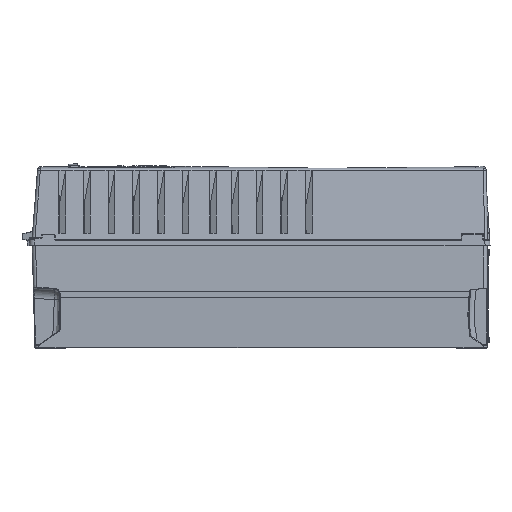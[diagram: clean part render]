
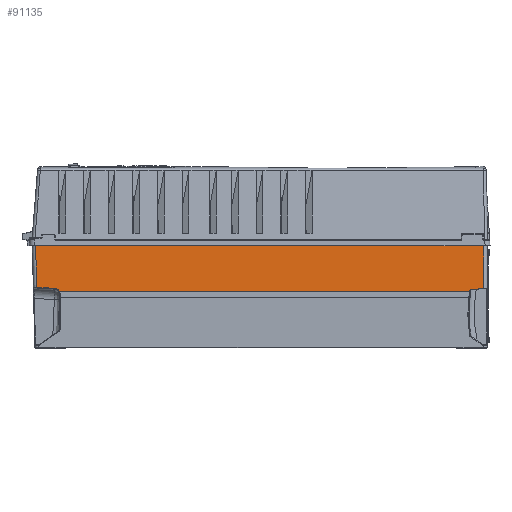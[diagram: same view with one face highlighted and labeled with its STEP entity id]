
A CAD part, left-side view. The second image highlights one B-rep face of the part: STEP entity #91135.
In plain terms, the highlighted planar face has unit normal (-1, 0, 0.024).
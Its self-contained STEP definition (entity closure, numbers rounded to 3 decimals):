
#1611=CARTESIAN_POINT('',(-119.098,318.091,
-2.488));
#1656=DIRECTION('',(0.001,0.998,0.061));
#1657=VECTOR('',#1656,25.514);
#1658=CARTESIAN_POINT('',(-120.645,291.007,
-65.824));
#1659=LINE('',#1658,#1657);
#1660=DIRECTION('',(0.024,0.026,0.999));
#1661=VECTOR('',#1660,61.818);
#1662=CARTESIAN_POINT('',(-120.607,316.473,
-64.266));
#1663=LINE('',#1662,#1661);
#1664=DIRECTION('',(0.,1.,0.));
#1665=VECTOR('',#1664,636.291);
#1666=CARTESIAN_POINT('',(-119.098,-318.2,
-2.488));
#1667=LINE('',#1666,#1665);
#1668=DIRECTION('',(-0.024,0.,-1.));
#1669=VECTOR('',#1668,63.825);
#1670=CARTESIAN_POINT('',(-119.098,-318.2,
-2.488));
#1671=LINE('',#1670,#1669);
#1672=CARTESIAN_POINT('',(-120.75,-297.88,
-70.105));
#1673=CARTESIAN_POINT('',(-120.75,-297.9,
-70.096));
#1674=CARTESIAN_POINT('',(-120.749,-297.936,
-70.069));
#1675=CARTESIAN_POINT('',(-120.747,-297.977,
-69.985));
#1676=CARTESIAN_POINT('',(-120.745,-298.011,
-69.906));
#1677=CARTESIAN_POINT('',(-120.743,-298.044,
-69.818));
#1678=CARTESIAN_POINT('',(-120.741,-298.077,
-69.725));
#1679=CARTESIAN_POINT('',(-120.738,-298.11,
-69.622));
#1680=CARTESIAN_POINT('',(-120.735,-298.145,
-69.508));
#1681=CARTESIAN_POINT('',(-120.732,-298.182,
-69.381));
#1682=CARTESIAN_POINT('',(-120.729,-298.221,
-69.242));
#1683=CARTESIAN_POINT('',(-120.725,-298.262,
-69.091));
#1684=CARTESIAN_POINT('',(-120.721,-298.304,
-68.931));
#1685=CARTESIAN_POINT('',(-120.717,-298.348,
-68.762));
#1686=CARTESIAN_POINT('',(-120.713,-298.392,
-68.587));
#1687=CARTESIAN_POINT('',(-120.708,-298.436,
-68.407));
#1688=CARTESIAN_POINT('',(-120.704,-298.481,
-68.223));
#1689=CARTESIAN_POINT('',(-120.699,-298.526,
-68.038));
#1690=CARTESIAN_POINT('',(-120.695,-298.57,
-67.853));
#1691=CARTESIAN_POINT('',(-120.69,-298.613,
-67.669));
#1692=CARTESIAN_POINT('',(-120.688,-298.641,
-67.549));
#1693=CARTESIAN_POINT('',(-120.686,-298.655,
-67.489));
#1695=DIRECTION('',(0.,1.,0.));
#1696=VECTOR('',#1695,582.019);
#1697=CARTESIAN_POINT('',(-120.75,-297.88,
-70.105));
#1698=LINE('',#1697,#1696);
#1699=CARTESIAN_POINT('',(-120.75,284.139,
-70.107));
#1700=CARTESIAN_POINT('',(-120.735,284.492,
-69.488));
#1701=CARTESIAN_POINT('',(-120.708,285.316,
-68.372));
#1702=CARTESIAN_POINT('',(-120.675,286.976,
-67.022));
#1703=CARTESIAN_POINT('',(-120.653,288.916,
-66.128));
#1704=CARTESIAN_POINT('',(-120.646,290.29,
-65.868));
#1705=CARTESIAN_POINT('',(-120.645,291.007,
-65.824));
#3131=CARTESIAN_POINT('',(-120.75,-297.88,
-70.105));
#3153=CARTESIAN_POINT('',(-120.686,-298.655,
-67.489));
#3212=DIRECTION('',(0.001,-0.998,0.061));
#3213=VECTOR('',#3212,19.582);
#3214=CARTESIAN_POINT('',(-120.686,-298.655,
-67.489));
#3215=LINE('',#3214,#3213);
#3220=CARTESIAN_POINT('',(-120.657,-318.2,-66.294));
#75292=VERTEX_POINT('',#1611);
#75294=CARTESIAN_POINT('',(-119.098,-318.2,
-2.488));
#75295=VERTEX_POINT('',#75294);
#75667=VERTEX_POINT('',#3131);
#75767=CARTESIAN_POINT('',(-120.645,291.007,
-65.824));
#75768=CARTESIAN_POINT('',(-120.607,316.473,
-64.266));
#75769=VERTEX_POINT('',#75767);
#75770=VERTEX_POINT('',#75768);
#75822=VERTEX_POINT('',#3153);
#79519=VERTEX_POINT('',#3220);
#79527=VERTEX_POINT('',#1699);
#91115=CARTESIAN_POINT('',(-120.75,-323.,-70.105));
#91116=DIRECTION('',(-1.,0.,0.024));
#91117=DIRECTION('',(0.024,0.,1.));
#91118=AXIS2_PLACEMENT_3D('',#91115,#91116,#91117);
#91119=PLANE('',#91118);
#91120=ORIENTED_EDGE('',*,*,#91108,.T.);
#91121=ORIENTED_EDGE('',*,*,#91005,.T.);
#91122=ORIENTED_EDGE('',*,*,#90727,.F.);
#91124=ORIENTED_EDGE('',*,*,#91123,.T.);
#91126=ORIENTED_EDGE('',*,*,#91125,.F.);
#91128=ORIENTED_EDGE('',*,*,#91127,.F.);
#91130=ORIENTED_EDGE('',*,*,#91129,.T.);
#91132=ORIENTED_EDGE('',*,*,#91131,.T.);
#91133=EDGE_LOOP('',(#91120,#91121,#91122,#91124,#91126,#91128,#91130,#91132));
#91134=FACE_OUTER_BOUND('',#91133,.F.);
#1694=B_SPLINE_CURVE_WITH_KNOTS('',3,(#1672,#1673,#1674,#1675,#1676,#1677,#1678,
#1679,#1680,#1681,#1682,#1683,#1684,#1685,#1686,#1687,#1688,#1689,#1690,#1691,
#1692,#1693),.UNSPECIFIED.,.F.,.F.,(4,1,1,1,1,1,1,1,1,1,1,1,1,1,1,1,1,1,1,4),(
0.,0.053,0.105,0.158,0.211,
0.263,0.316,0.368,0.421,
0.474,0.526,0.579,0.632,
0.684,0.737,0.789,0.842,
0.895,0.947,1.),.UNSPECIFIED.);
#1706=B_SPLINE_CURVE_WITH_KNOTS('',3,(#1699,#1700,#1701,#1702,#1703,#1704,
#1705),.UNSPECIFIED.,.F.,.F.,(4,1,1,1,4),(0.,0.25,0.5,0.75,1.),
.UNSPECIFIED.);
#90727=EDGE_CURVE('',#75295,#75292,#1667,.T.);
#91005=EDGE_CURVE('',#75770,#75292,#1663,.T.);
#91108=EDGE_CURVE('',#75769,#75770,#1659,.T.);
#91123=EDGE_CURVE('',#75295,#79519,#1671,.T.);
#91125=EDGE_CURVE('',#75822,#79519,#3215,.T.);
#91127=EDGE_CURVE('',#75667,#75822,#1694,.T.);
#91129=EDGE_CURVE('',#75667,#79527,#1698,.T.);
#91131=EDGE_CURVE('',#79527,#75769,#1706,.T.);
#91135=ADVANCED_FACE('',(#91134),#91119,.T.);
